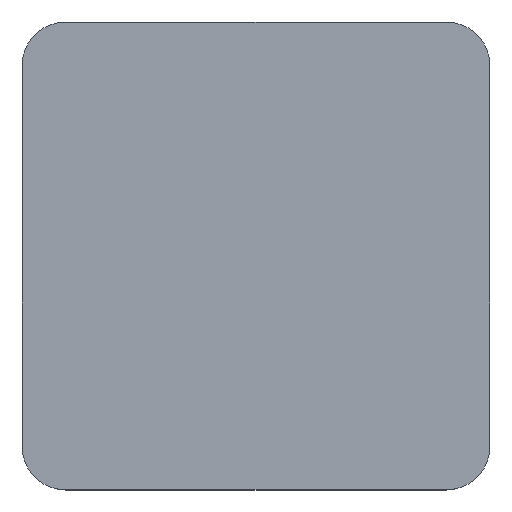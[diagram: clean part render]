
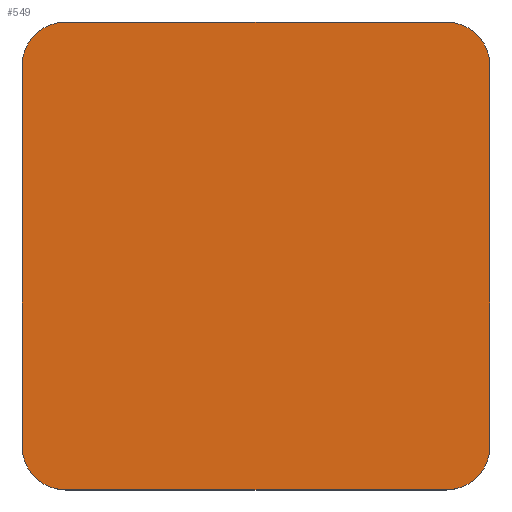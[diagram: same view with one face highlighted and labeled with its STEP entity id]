
A CAD part, top view. The second image highlights one B-rep face of the part: STEP entity #549.
In plain terms, the highlighted planar face has unit normal (0, 0, 1).
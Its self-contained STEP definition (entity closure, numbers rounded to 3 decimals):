
#263=CIRCLE('',#519,7.5);
#265=CIRCLE('',#523,7.5);
#267=CIRCLE('',#527,7.5);
#269=CIRCLE('',#531,7.5);
#314=ORIENTED_EDGE('',*,*,#373,.T.);
#315=ORIENTED_EDGE('',*,*,#393,.T.);
#316=ORIENTED_EDGE('',*,*,#391,.T.);
#317=ORIENTED_EDGE('',*,*,#388,.T.);
#318=ORIENTED_EDGE('',*,*,#385,.T.);
#319=ORIENTED_EDGE('',*,*,#382,.T.);
#320=ORIENTED_EDGE('',*,*,#379,.T.);
#321=ORIENTED_EDGE('',*,*,#376,.T.);
#325=VECTOR('',#419,1.);
#329=VECTOR('',#431,1.);
#333=VECTOR('',#443,1.);
#337=VECTOR('',#455,1.);
#341=LINE('',#474,#325);
#345=LINE('',#486,#329);
#349=LINE('',#498,#333);
#353=LINE('',#510,#337);
#355=VERTEX_POINT('',#468);
#357=VERTEX_POINT('',#472);
#359=VERTEX_POINT('',#477);
#361=VERTEX_POINT('',#483);
#363=VERTEX_POINT('',#489);
#365=VERTEX_POINT('',#495);
#367=VERTEX_POINT('',#501);
#369=VERTEX_POINT('',#507);
#373=EDGE_CURVE('',#355,#357,#341,.T.);
#376=EDGE_CURVE('',#359,#355,#263,.T.);
#379=EDGE_CURVE('',#361,#359,#345,.T.);
#382=EDGE_CURVE('',#363,#361,#265,.T.);
#385=EDGE_CURVE('',#365,#363,#349,.T.);
#388=EDGE_CURVE('',#367,#365,#267,.T.);
#391=EDGE_CURVE('',#369,#367,#353,.T.);
#393=EDGE_CURVE('',#357,#369,#269,.T.);
#403=EDGE_LOOP('',(#314,#315,#316,#317,#318,#319,#320,#321));
#413=FACE_BOUND('',#403,.T.);
#419=DIRECTION('',(0.,65.,0.));
#425=DIRECTION('',(0.,0.,1.));
#426=DIRECTION('',(7.5,0.,0.));
#431=DIRECTION('',(65.,0.,0.));
#437=DIRECTION('',(0.,0.,1.));
#438=DIRECTION('',(0.,-7.5,0.));
#443=DIRECTION('',(0.,-65.,0.));
#449=DIRECTION('',(0.,0.,1.));
#450=DIRECTION('',(-7.5,0.,0.));
#455=DIRECTION('',(-65.,0.,0.));
#460=DIRECTION('',(0.,0.,1.));
#461=DIRECTION('',(0.,7.5,0.));
#464=DIRECTION('',(0.,0.,1.));
#465=DIRECTION('',(0.,-1.,0.));
#468=CARTESIAN_POINT('',(6944.504,13793.86,5.));
#472=CARTESIAN_POINT('',(6944.504,13858.86,5.));
#474=CARTESIAN_POINT('',(6944.504,13793.86,5.));
#477=CARTESIAN_POINT('',(6937.004,13786.36,5.));
#480=CARTESIAN_POINT('',(6937.004,13793.86,5.));
#483=CARTESIAN_POINT('',(6872.004,13786.36,5.));
#486=CARTESIAN_POINT('',(6872.004,13786.36,5.));
#489=CARTESIAN_POINT('',(6864.504,13793.86,5.));
#492=CARTESIAN_POINT('',(6872.004,13793.86,5.));
#495=CARTESIAN_POINT('',(6864.504,13858.86,5.));
#498=CARTESIAN_POINT('',(6864.504,13858.86,5.));
#501=CARTESIAN_POINT('',(6872.004,13866.36,5.));
#504=CARTESIAN_POINT('',(6872.004,13858.86,5.));
#507=CARTESIAN_POINT('',(6937.004,13866.36,5.));
#510=CARTESIAN_POINT('',(6937.004,13866.36,5.));
#513=CARTESIAN_POINT('',(6937.004,13858.86,5.));
#515=CARTESIAN_POINT('',(0.,0.,5.));
#519=AXIS2_PLACEMENT_3D('',#480,#425,#426);
#523=AXIS2_PLACEMENT_3D('',#492,#437,#438);
#527=AXIS2_PLACEMENT_3D('',#504,#449,#450);
#531=AXIS2_PLACEMENT_3D('',#513,#460,#461);
#533=AXIS2_PLACEMENT_3D('',#515,#464,#465);
#539=PLANE('',#533);
#549=ADVANCED_FACE('',(#413),#539,.T.);
